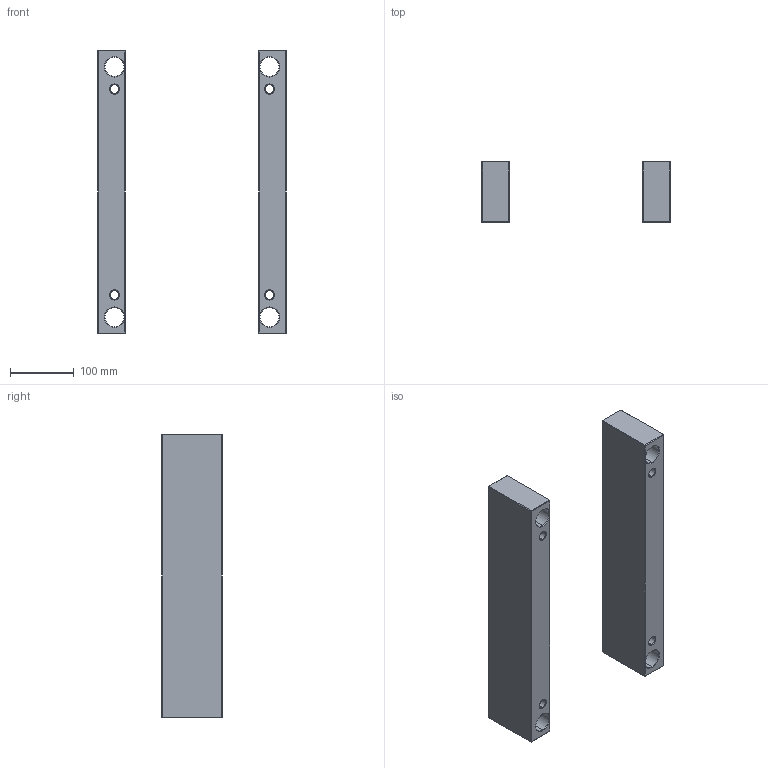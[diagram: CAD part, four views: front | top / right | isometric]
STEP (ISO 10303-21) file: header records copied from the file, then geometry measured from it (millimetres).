
FILE_DESCRIPTION (( 'STEP AP214' ), '1' );
FILE_NAME ('ESP-EU-296X446x96.STEP', '2020-04-15T17:24:03', ( 'August' ), ( '' ), 'SwSTEP 2.0', 'SolidWorks 2018', '' );
FILE_SCHEMA (( 'AUTOMOTIVE_DESIGN' ));
Length unit declared in the file: millimetre
Products named in the file (1): ESP-EU-296X446x96
Bounding box: 296 x 96 x 446 mm (x, y, z)
Volume: 3348731.2 mm3; surface area: 307307.5 mm2
Topology: 2 solids, 2 shells, 100 faces, 224 edges, 120 vertices
Faces by surface type: plane 52, cone 32, cylinder 16
Entity records: 2751 total; most frequent: DIRECTION 498, ORIENTED_EDGE 448, CARTESIAN_POINT 445, EDGE_CURVE 224, AXIS2_PLACEMENT_3D 173, LINE 152, VECTOR 152, VERTEX_POINT 120
